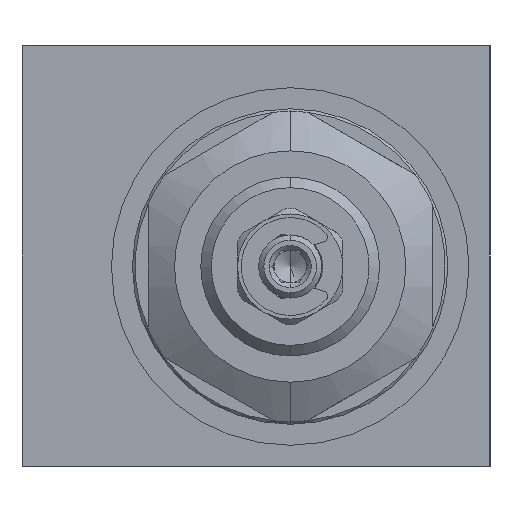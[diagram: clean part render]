
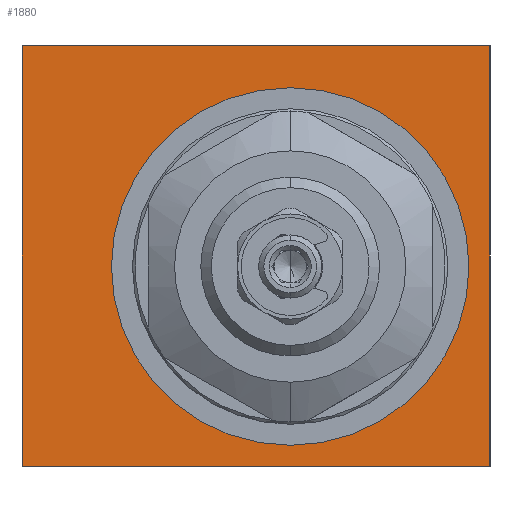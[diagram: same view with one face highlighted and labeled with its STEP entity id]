
A CAD part, left-side view. The second image highlights one B-rep face of the part: STEP entity #1880.
In plain terms, the highlighted planar face has unit normal (-1, 0, 0).
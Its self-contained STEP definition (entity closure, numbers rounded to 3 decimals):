
#28 = VERTEX_POINT ( 'NONE', #8169 ) ;
#209 = DIRECTION ( 'NONE',  ( 0., 0., 1. ) ) ;
#242 = CARTESIAN_POINT ( 'NONE',  ( 0., 22.25, 20. ) ) ;
#416 = DIRECTION ( 'NONE',  ( 0., -1., 0. ) ) ;
#435 = DIRECTION ( 'NONE',  ( 0., 0., -1. ) ) ;
#466 = EDGE_CURVE ( 'NONE', #9173, #8844, #12977, .T. ) ;
#485 = CARTESIAN_POINT ( 'NONE',  ( 0., -22.25, 20. ) ) ;
#491 = CARTESIAN_POINT ( 'NONE',  ( 0., -22.25, 20. ) ) ;
#496 = EDGE_CURVE ( 'NONE', #28, #9173, #14726, .T. ) ;
#499 = EDGE_CURVE ( 'NONE', #863, #28, #11785, .T. ) ;
#522 = EDGE_CURVE ( 'NONE', #8844, #863, #6998, .T. ) ;
#546 = EDGE_CURVE ( 'NONE', #3280, #6070, #11197, .T. ) ;
#548 = CARTESIAN_POINT ( 'NONE',  ( 0., -22.25, -20. ) ) ;
#833 = DIRECTION ( 'NONE',  ( 0., 0., 1. ) ) ;
#846 = DIRECTION ( 'NONE',  ( -1., 0., 0. ) ) ;
#863 = VERTEX_POINT ( 'NONE', #6731 ) ;
#885 = CARTESIAN_POINT ( 'NONE',  ( 0., -3.25, -1. ) ) ;
#973 = ORIENTED_EDGE ( 'NONE', *, *, #496, .F. ) ;
#1599 = CARTESIAN_POINT ( 'NONE',  ( 0., -3.25, -1. ) ) ;
#1880 = ADVANCED_FACE ( 'NONE', ( #14313, #6465 ), #3334, .T. ) ;
#3018 = EDGE_CURVE ( 'NONE', #6070, #3280, #15188, .T. ) ;
#3280 = VERTEX_POINT ( 'NONE', #3475 ) ;
#3334 = PLANE ( 'NONE',  #3925 ) ;
#3475 = CARTESIAN_POINT ( 'NONE',  ( 0., -3.25, 16. ) ) ;
#3925 = AXIS2_PLACEMENT_3D ( 'NONE', #4469, #4458, #4455 ) ;
#3986 = ORIENTED_EDGE ( 'NONE', *, *, #3018, .F. ) ;
#4455 = DIRECTION ( 'NONE',  ( 0., 0., 1. ) ) ;
#4458 = DIRECTION ( 'NONE',  ( -1., 0., 0. ) ) ;
#4469 = CARTESIAN_POINT ( 'NONE',  ( 0., 22.25, -20. ) ) ;
#4479 = ORIENTED_EDGE ( 'NONE', *, *, #546, .F. ) ;
#4607 = VECTOR ( 'NONE', #435, 1000. ) ;
#5619 = EDGE_LOOP ( 'NONE', ( #4479, #3986 ) ) ;
#5812 = CARTESIAN_POINT ( 'NONE',  ( 0., -3.25, -18. ) ) ;
#6070 = VERTEX_POINT ( 'NONE', #5812 ) ;
#6364 = AXIS2_PLACEMENT_3D ( 'NONE', #1599, #9533, #13035 ) ;
#6465 = FACE_BOUND ( 'NONE', #5619, .T. ) ;
#6731 = CARTESIAN_POINT ( 'NONE',  ( 0., 22.25, 20. ) ) ;
#6998 = LINE ( 'NONE', #242, #14214 ) ;
#7585 = DIRECTION ( 'NONE',  ( 0., 1., 0. ) ) ;
#8169 = CARTESIAN_POINT ( 'NONE',  ( 0., -22.25, 20. ) ) ;
#8844 = VERTEX_POINT ( 'NONE', #11653 ) ;
#9173 = VERTEX_POINT ( 'NONE', #14161 ) ;
#9229 = VECTOR ( 'NONE', #416, 1000. ) ;
#9533 = DIRECTION ( 'NONE',  ( -1., 0., 0. ) ) ;
#10304 = ORIENTED_EDGE ( 'NONE', *, *, #522, .F. ) ;
#11197 = CIRCLE ( 'NONE', #14848, 17. ) ;
#11653 = CARTESIAN_POINT ( 'NONE',  ( 0., 22.25, -20. ) ) ;
#11785 = LINE ( 'NONE', #485, #9229 ) ;
#12977 = LINE ( 'NONE', #548, #14746 ) ;
#13035 = DIRECTION ( 'NONE',  ( 0., 0., 1. ) ) ;
#13126 = ORIENTED_EDGE ( 'NONE', *, *, #499, .F. ) ;
#13794 = EDGE_LOOP ( 'NONE', ( #15053, #973, #13126, #10304 ) ) ;
#14161 = CARTESIAN_POINT ( 'NONE',  ( 0., -22.25, -20. ) ) ;
#14214 = VECTOR ( 'NONE', #209, 1000. ) ;
#14313 = FACE_OUTER_BOUND ( 'NONE', #13794, .T. ) ;
#14726 = LINE ( 'NONE', #491, #4607 ) ;
#14746 = VECTOR ( 'NONE', #7585, 1000. ) ;
#14848 = AXIS2_PLACEMENT_3D ( 'NONE', #885, #846, #833 ) ;
#15053 = ORIENTED_EDGE ( 'NONE', *, *, #466, .F. ) ;
#15188 = CIRCLE ( 'NONE', #6364, 17. ) ;
